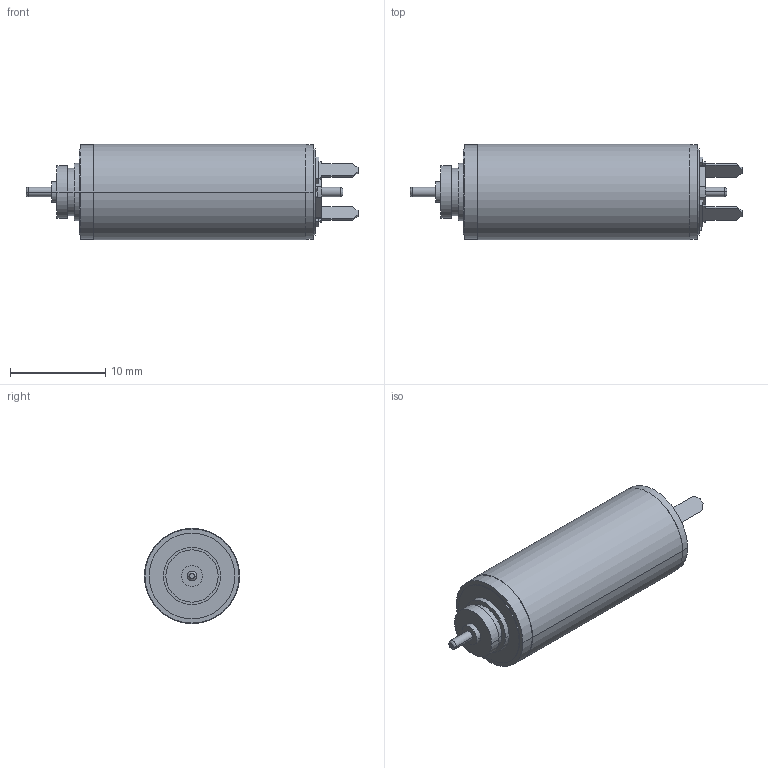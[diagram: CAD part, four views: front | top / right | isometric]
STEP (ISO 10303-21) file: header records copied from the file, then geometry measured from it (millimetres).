
FILE_DESCRIPTION((''),'2;1');
FILE_NAME('256096_RE10_EB_1_5W_SL_2WE','2016-10-07T',('mmagvisi'),(''),'CREO PARAMETRIC BY PTC INC, 2016050','CREO PARAMETRIC BY PTC INC, 2016050','');
FILE_SCHEMA(('CONFIG_CONTROL_DESIGN'));
Length unit declared in the file: millimetre
Products named in the file (1): 256096_RE10_EB_1_5W_SL_2WE
Bounding box: 34.9 x 10 x 10 mm (x, y, z)
Volume: 1992.7 mm3; surface area: 1158.1 mm2
Topology: 1 solids, 1 shells, 125 faces, 298 edges, 194 vertices
Faces by surface type: plane 80, cylinder 37, bspline 4, torus 4
Entity records: 4689 total; most frequent: CARTESIAN_POINT 701, DIRECTION 632, ORIENTED_EDGE 596, PRESENTATION_STYLE_ASSIGNMENT 299, STYLED_ITEM 299, CURVE_STYLE 298, EDGE_CURVE 298, AXIS2_PLACEMENT_3D 213
